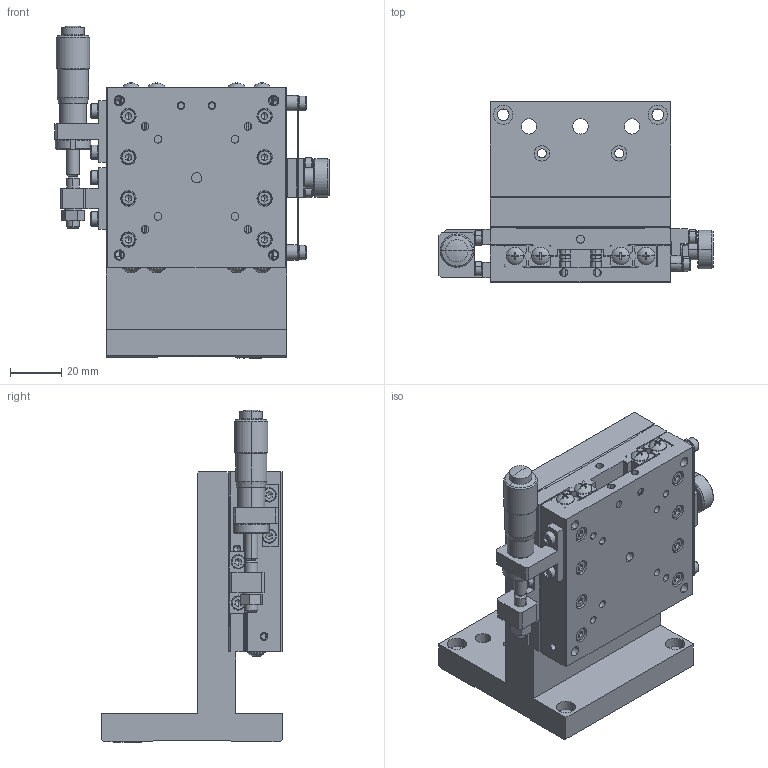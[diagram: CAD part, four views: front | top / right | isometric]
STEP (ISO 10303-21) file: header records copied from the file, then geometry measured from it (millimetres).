
FILE_DESCRIPTION (( 'STEP AP214' ), '1' );
FILE_NAME ('ZM07A-X1-R.STEP', '2007-08-07T02:21:55', ( ' ' ), ( ' ' ), 'SwSTEP 2.0', 'SolidWorks 2006052', '' );
FILE_SCHEMA (( 'AUTOMOTIVE_DESIGN' ));
Length unit declared in the file: millimetre
Products named in the file (4): 001490-1011(3D)-1; ZM07A-X1-R; 001490-1023(3D)-1; XM07A-S1Z-R(PL)
Assembly tree (3 placements, depth 3):
  ZM07A-X1-R
    XM07A-S1Z-R(PL)
      001490-1023(3D)-1
      001490-1011(3D)-1
Bounding box: 106.5 x 70 x 129 mm (x, y, z)
Volume: 227665.2 mm3; surface area: 80858.9 mm2
Topology: 2 solids, 53 shells, 2121 faces, 4998 edges, 2982 vertices
Faces by surface type: plane 990, cylinder 647, cone 448, sphere 20, torus 16
Entity records: 60795 total; most frequent: CARTESIAN_POINT 11230, DIRECTION 11010, ORIENTED_EDGE 9776, EDGE_CURVE 4888, AXIS2_PLACEMENT_3D 4201, VERTEX_POINT 2982, LINE 2608, VECTOR 2608
